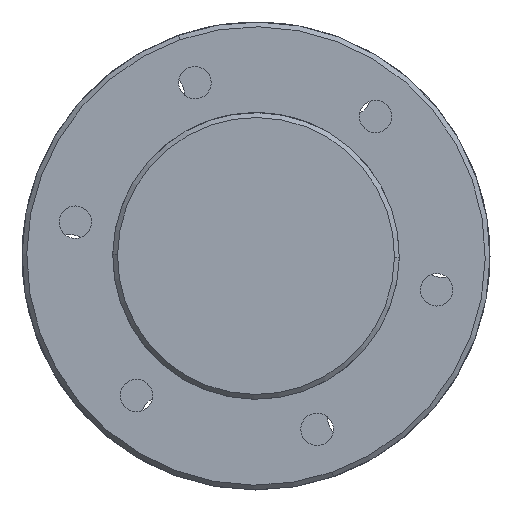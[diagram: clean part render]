
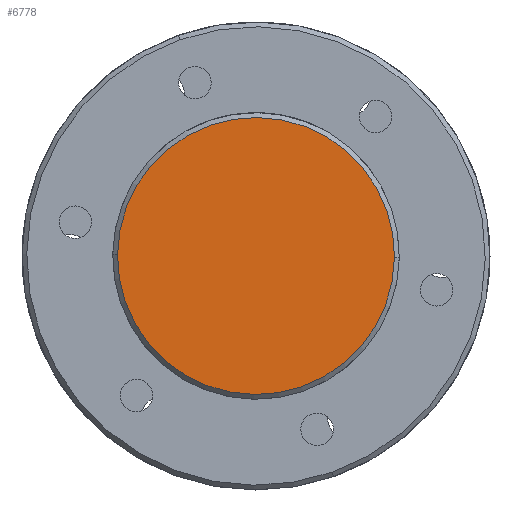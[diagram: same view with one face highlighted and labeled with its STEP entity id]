
A CAD part, left-side view. The second image highlights one B-rep face of the part: STEP entity #6778.
In plain terms, the highlighted planar face has unit normal (-1, 0, 0).
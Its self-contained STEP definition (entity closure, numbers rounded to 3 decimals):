
#654 = CARTESIAN_POINT ( 'NONE',  ( 0., 0., 29. ) ) ;
#1318 = CIRCLE ( 'NONE', #6258, 29. ) ;
#2445 = DIRECTION ( 'NONE',  ( 0., 0., -1. ) ) ;
#4311 = CARTESIAN_POINT ( 'NONE',  ( 0., 0., 0. ) ) ;
#5641 = FACE_OUTER_BOUND ( 'NONE', #9260, .T. ) ;
#5752 = CARTESIAN_POINT ( 'NONE',  ( 0., 0., 0. ) ) ;
#6258 = AXIS2_PLACEMENT_3D ( 'NONE', #4311, #14074, #2445 ) ;
#6778 = ADVANCED_FACE ( 'NONE', ( #5641 ), #12316, .F. ) ;
#6788 = EDGE_CURVE ( 'NONE', #13965, #9730, #1318, .T. ) ;
#7036 = DIRECTION ( 'NONE',  ( -1., 0., 0. ) ) ;
#9260 = EDGE_LOOP ( 'NONE', ( #21111, #20905 ) ) ;
#9730 = VERTEX_POINT ( 'NONE', #654 ) ;
#10903 = CARTESIAN_POINT ( 'NONE',  ( 0., 0., -29. ) ) ;
#12316 = PLANE ( 'NONE',  #19477 ) ;
#13919 = CARTESIAN_POINT ( 'NONE',  ( 0., 0., 0. ) ) ;
#13965 = VERTEX_POINT ( 'NONE', #10903 ) ;
#14074 = DIRECTION ( 'NONE',  ( -1., 0., 0. ) ) ;
#15417 = EDGE_CURVE ( 'NONE', #9730, #13965, #16877, .T. ) ;
#16877 = CIRCLE ( 'NONE', #19663, 29. ) ;
#18581 = DIRECTION ( 'NONE',  ( 0., 0., -1. ) ) ;
#18944 = DIRECTION ( 'NONE',  ( 0., 0., -1. ) ) ;
#19477 = AXIS2_PLACEMENT_3D ( 'NONE', #5752, #20900, #18944 ) ;
#19663 = AXIS2_PLACEMENT_3D ( 'NONE', #13919, #7036, #18581 ) ;
#20900 = DIRECTION ( 'NONE',  ( 1., 0., 0. ) ) ;
#20905 = ORIENTED_EDGE ( 'NONE', *, *, #15417, .T. ) ;
#21111 = ORIENTED_EDGE ( 'NONE', *, *, #6788, .T. ) ;
